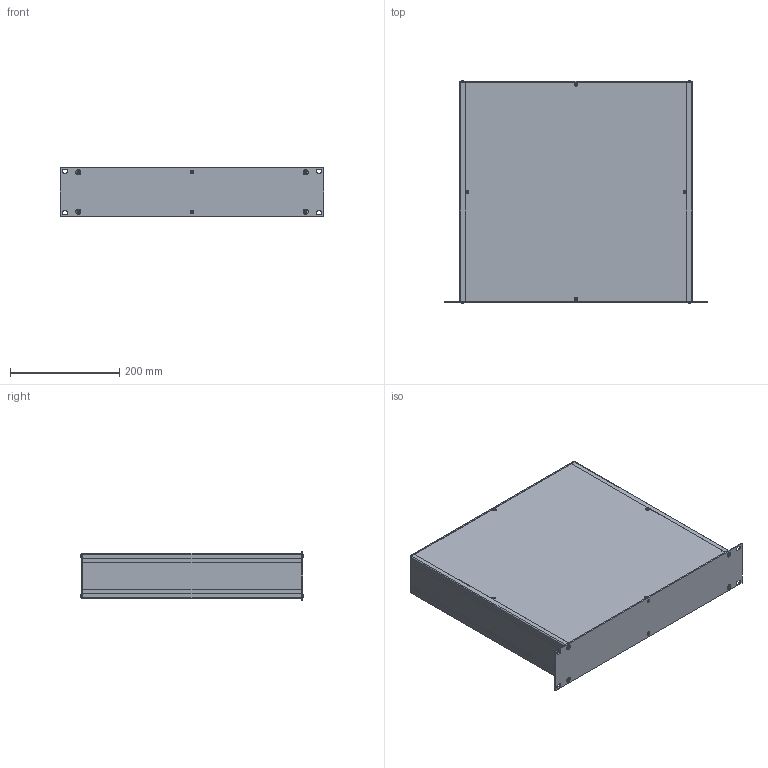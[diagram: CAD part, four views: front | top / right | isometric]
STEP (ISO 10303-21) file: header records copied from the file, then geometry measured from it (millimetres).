
FILE_DESCRIPTION(/* description */ (''),/* implementation_level */ '2;1');
FILE_NAME(/* name */ '//diskstation/Kunden/Gehäuse/Gehäuse/2HE/step/Zoll 2HE Rack Gehäuse Tiefe-400.step',/* time_stamp */ '2022-02-17T15:36:07+01:00',/* author */ (''),/* organization */ (''),/* preprocessor_version */ 'ST-DEVELOPER v18.1',/* originating_system */ 'Autodesk Translation Framework v10.10.0.1391',/* authorisation */ '');
FILE_SCHEMA (('AUTOMOTIVE_DESIGN { 1 0 10303 214 3 1 1 }'));
Length unit declared in the file: millimetre
Products named in the file (28): 2HE Gehäuse mit parametern; Gehäuse; Gehäuseprofil 1 unten links; Gehäuseprofil 2 oben rechts; Gehäuseprofil 1 unten rechts; Gehäuseprofil 2 oben links; Rückplatte; Deckel; Seitenteil links; Seitenteil rechts; Bodenplatte; Montageklotz Front/Deckel; Montageklotz Front/Boden; Montageklotz Rück/Deckel; Montageklotz Rück/Boden; Gewindestreifen; Frontplatte; Schrauben M5; Schraube Front; Schraube Front (1); Schraube Front (2); Schraube Front (3); Schraube Rück (1); Schraube Rück; Schraube Rück (2); Schraube Rück (3); Schrauben M3; HI_Senkschraube DIN 965 A v2 M3x5 24677.030.005(High)
Assembly tree (37 placements, depth 3):
  2HE Gehäuse mit parametern
    Gehäuse
      Gehäuseprofil 1 unten links
      Gehäuseprofil 2 oben rechts
      Gehäuseprofil 1 unten rechts
      Gehäuseprofil 2 oben links
      Rückplatte
      Deckel
      Seitenteil links
      Seitenteil rechts
      Bodenplatte
      Montageklotz Front/Deckel
      Montageklotz Front/Boden
      Montageklotz Rück/Deckel
      Montageklotz Rück/Boden
      Gewindestreifen  x2
    Frontplatte
    Schrauben M5
      Schraube Front
      Schraube Front (1)
      Schraube Front (2)
      Schraube Front (3)
      Schraube Rück (1)
      Schraube Rück
      Schraube Rück (2)
      Schraube Rück (3)
    Schrauben M3
      HI_Senkschraube DIN 965 A v2 M3x5 24677.030.005(High)  x10
Bounding box: 483 x 408.2 x 88.1 mm (x, y, z)
Volume: 1213412 mm3; surface area: 1088588.6 mm2
Topology: 34 solids, 34 shells, 914 faces, 2256 edges, 1410 vertices
Faces by surface type: cylinder 392, plane 342, cone 164, torus 8, bspline 8
Full cylindrical faces by diameter (mm): 2.529 x150, 3 x10, 3.2 x10, 4.234 x40, 5 x8, 5.2 x8, 5.3 x4, 5.6 x10, 9.5 x8
Entity records: 18015 total; most frequent: CARTESIAN_POINT 3258, DIRECTION 3030, ORIENTED_EDGE 2670, EDGE_CURVE 1335, AXIS2_PLACEMENT_3D 1150, VERTEX_POINT 838, EDGE_LOOP 821, LINE 730
